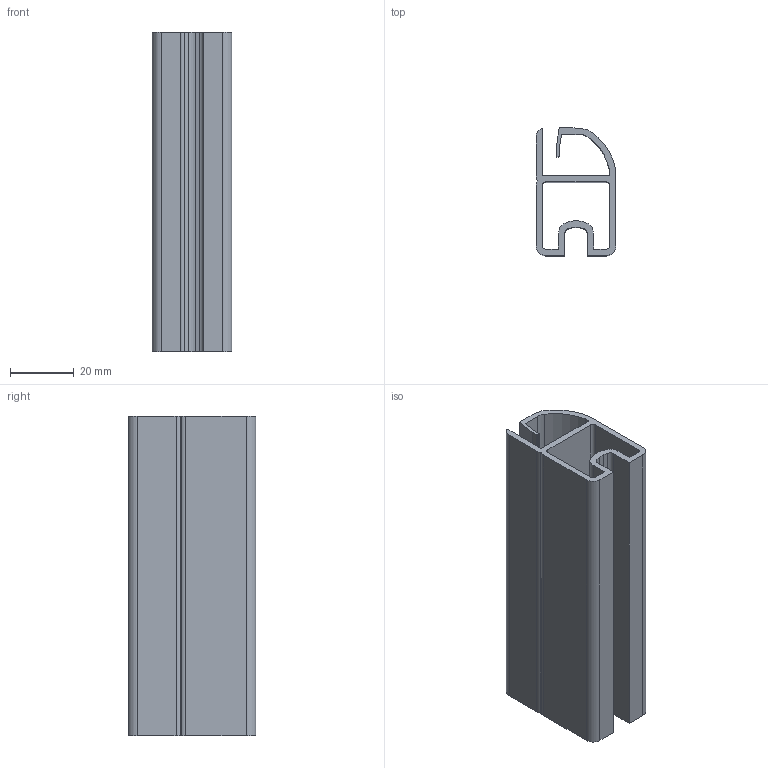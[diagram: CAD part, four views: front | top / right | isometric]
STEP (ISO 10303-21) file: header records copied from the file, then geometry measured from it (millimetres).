
FILE_DESCRIPTION (( 'STEP AP203' ), '1' );
FILE_NAME ('013.025.011.STEP', '2020-07-22T09:06:58', ( '' ), ( '' ), 'SwSTEP 2.0', 'SolidWorks 2018', '' );
FILE_SCHEMA (( 'CONFIG_CONTROL_DESIGN' ));
Length unit declared in the file: millimetre
Products named in the file (1): 013.025.011
Bounding box: 25 x 40 x 100 mm (x, y, z)
Volume: 29322.1 mm3; surface area: 30879.2 mm2
Topology: 1 solids, 1 shells, 55 faces, 159 edges, 106 vertices
Faces by surface type: plane 30, cylinder 23, bspline 2
Entity records: 1912 total; most frequent: CARTESIAN_POINT 347, ORIENTED_EDGE 318, DIRECTION 309, EDGE_CURVE 159, LINE 109, VECTOR 109, VERTEX_POINT 106, AXIS2_PLACEMENT_3D 100
